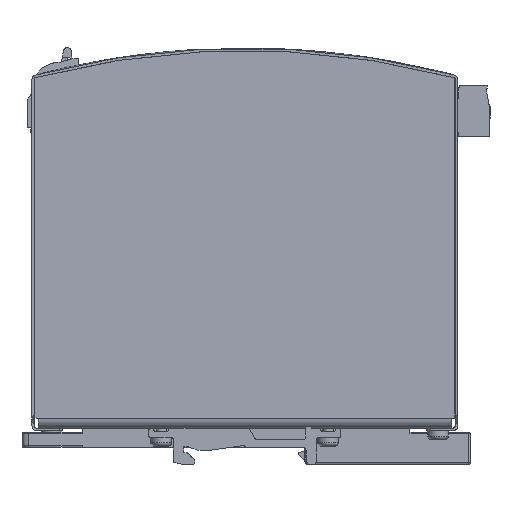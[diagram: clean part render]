
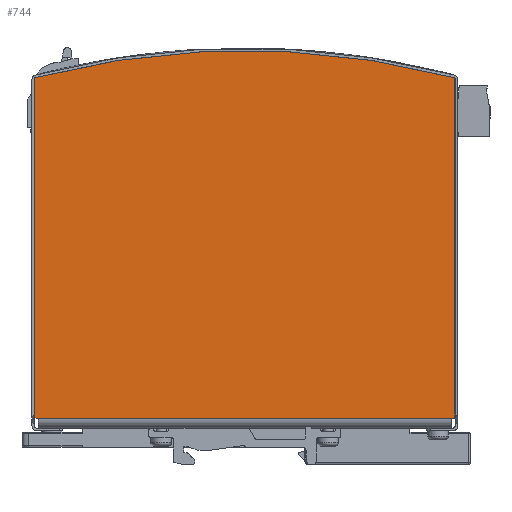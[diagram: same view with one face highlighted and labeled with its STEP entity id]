
A CAD part, front view. The second image highlights one B-rep face of the part: STEP entity #744.
In plain terms, the highlighted planar face has unit normal (0, -1, 0).
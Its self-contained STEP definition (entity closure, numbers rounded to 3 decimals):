
#168=CARTESIAN_POINT('',(60.15,-24.5,3.));
#169=VERTEX_POINT('',#168);
#177=CARTESIAN_POINT('',(-60.15,-24.5,3.));
#178=VERTEX_POINT('',#177);
#179=CARTESIAN_POINT('',(60.15,-24.5,3.));
#180=DIRECTION('',(-1.0,0.0,0.0));
#181=VECTOR('',#180,120.3);
#182=LINE('',#179,#181);
#183=EDGE_CURVE('',#169,#178,#182,.T.);
#588=CARTESIAN_POINT('',(-61.15,-24.5,102.079));
#589=VERTEX_POINT('',#588);
#606=CARTESIAN_POINT('',(-61.15,-24.5,3.));
#607=VERTEX_POINT('',#606);
#614=CARTESIAN_POINT('',(-61.15,-24.5,102.079));
#615=DIRECTION('',(0.0,0.0,-1.0));
#616=VECTOR('',#615,99.079);
#617=LINE('',#614,#616);
#618=EDGE_CURVE('',#589,#607,#617,.T.);
#630=CARTESIAN_POINT('',(61.15,-24.5,102.079));
#631=VERTEX_POINT('',#630);
#638=CARTESIAN_POINT('',(61.15,-24.5,3.));
#639=VERTEX_POINT('',#638);
#640=CARTESIAN_POINT('',(61.15,-24.5,3.));
#641=DIRECTION('',(0.0,0.0,1.0));
#642=VECTOR('',#641,99.079);
#643=LINE('',#640,#642);
#644=EDGE_CURVE('',#639,#631,#643,.T.);
#668=CARTESIAN_POINT('',(0.,-24.5,-130.));
#669=DIRECTION('',(0.0,-1.0,0.0));
#670=DIRECTION('',(0.0,0.0,-1.0));
#671=AXIS2_PLACEMENT_3D('',#668,#669,#670);
#672=CIRCLE('',#671,240.);
#673=EDGE_CURVE('',#631,#589,#672,.T.);
#693=CARTESIAN_POINT('',(61.15,-24.5,3.));
#694=DIRECTION('',(-1.0,0.,0.));
#695=VECTOR('',#694,1.);
#696=LINE('',#693,#695);
#697=EDGE_CURVE('',#639,#169,#696,.T.);
#722=CARTESIAN_POINT('',(-61.15,-24.5,3.));
#723=DIRECTION('',(1.0,0.0,0.0));
#724=VECTOR('',#723,1.);
#725=LINE('',#722,#724);
#726=EDGE_CURVE('',#607,#178,#725,.T.);
#731=CARTESIAN_POINT('',(61.15,-24.5,1.5));
#732=DIRECTION('',(0.0,1.0,0.0));
#733=DIRECTION('',(0.0,0.0,1.0));
#734=AXIS2_PLACEMENT_3D('',#731,#732,#733);
#735=PLANE('',#734);
#736=ORIENTED_EDGE('',*,*,#644,.T.);
#737=ORIENTED_EDGE('',*,*,#673,.T.);
#738=ORIENTED_EDGE('',*,*,#618,.T.);
#739=ORIENTED_EDGE('',*,*,#726,.T.);
#740=ORIENTED_EDGE('',*,*,#183,.F.);
#741=ORIENTED_EDGE('',*,*,#697,.F.);
#742=EDGE_LOOP('',(#736,#737,#738,#739,#740,#741));
#743=FACE_OUTER_BOUND('',#742,.T.);
#744=ADVANCED_FACE('',(#743),#735,.F.);
